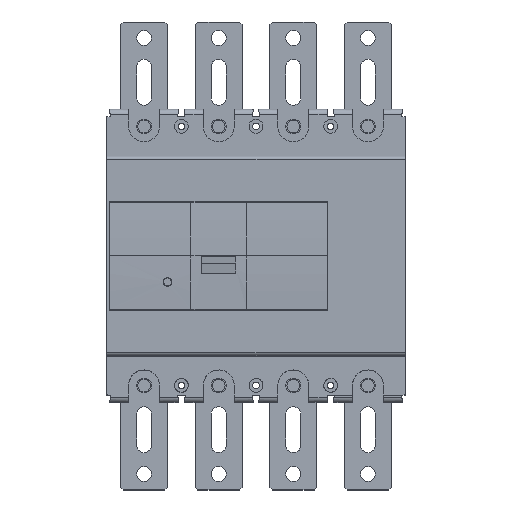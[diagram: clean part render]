
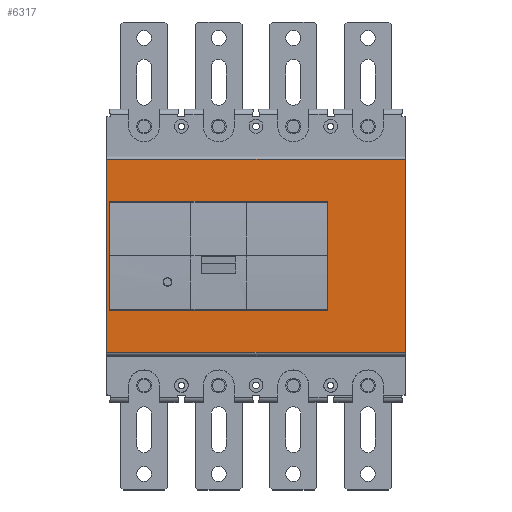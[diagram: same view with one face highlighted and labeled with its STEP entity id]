
A CAD part, top view. The second image highlights one B-rep face of the part: STEP entity #6317.
In plain terms, the highlighted planar face has unit normal (0, 0, 1).
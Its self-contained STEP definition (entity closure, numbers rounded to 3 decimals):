
#15 = CARTESIAN_POINT ( 'NONE',  ( 175., 90.5, 103. ) ) ;
#280 = ORIENTED_EDGE ( 'NONE', *, *, #8666, .T. ) ;
#472 = EDGE_CURVE ( 'NONE', #4126, #8591, #688, .T. ) ;
#688 = LINE ( 'NONE', #5199, #9529 ) ;
#945 = ORIENTED_EDGE ( 'NONE', *, *, #472, .F. ) ;
#1053 = EDGE_CURVE ( 'NONE', #6841, #6987, #11228, .T. ) ;
#1151 = VERTEX_POINT ( 'NONE', #5642 ) ;
#1261 = VECTOR ( 'NONE', #12229, 1000. ) ;
#1353 = CARTESIAN_POINT ( 'NONE',  ( -102., -51., 103. ) ) ;
#1421 = ORIENTED_EDGE ( 'NONE', *, *, #10606, .T. ) ;
#1508 = DIRECTION ( 'NONE',  ( -1., 0., 0. ) ) ;
#2078 = CARTESIAN_POINT ( 'NONE',  ( 105., 0., 103. ) ) ;
#2593 = ORIENTED_EDGE ( 'NONE', *, *, #11325, .F. ) ;
#3053 = DIRECTION ( 'NONE',  ( 0., 0., -1. ) ) ;
#3330 = CARTESIAN_POINT ( 'NONE',  ( 102., -51., 103. ) ) ;
#3656 = LINE ( 'NONE', #4412, #10672 ) ;
#3695 = CARTESIAN_POINT ( 'NONE',  ( 175., 0., 103. ) ) ;
#3760 = EDGE_LOOP ( 'NONE', ( #1421, #5104, #5151, #10469 ) ) ;
#3762 = VERTEX_POINT ( 'NONE', #13245 ) ;
#4126 = VERTEX_POINT ( 'NONE', #11892 ) ;
#4316 = CARTESIAN_POINT ( 'NONE',  ( 102., -51., 103. ) ) ;
#4412 = CARTESIAN_POINT ( 'NONE',  ( -105., 0., 103. ) ) ;
#4851 = DIRECTION ( 'NONE',  ( 0., -1., 0. ) ) ;
#4977 = ORIENTED_EDGE ( 'NONE', *, *, #1053, .T. ) ;
#5029 = EDGE_CURVE ( 'NONE', #9074, #1151, #7932, .T. ) ;
#5104 = ORIENTED_EDGE ( 'NONE', *, *, #14020, .F. ) ;
#5151 = ORIENTED_EDGE ( 'NONE', *, *, #13282, .F. ) ;
#5184 = CARTESIAN_POINT ( 'NONE',  ( 105., -90.5, 103. ) ) ;
#5199 = CARTESIAN_POINT ( 'NONE',  ( -102., 0., 103. ) ) ;
#5236 = LINE ( 'NONE', #3695, #11374 ) ;
#5257 = PLANE ( 'NONE',  #6536 ) ;
#5393 = DIRECTION ( 'NONE',  ( 0., 1., 0. ) ) ;
#5410 = VECTOR ( 'NONE', #5625, 1000. ) ;
#5543 = LINE ( 'NONE', #5184, #9798 ) ;
#5625 = DIRECTION ( 'NONE',  ( -1., 0., 0. ) ) ;
#5642 = CARTESIAN_POINT ( 'NONE',  ( -105., 90.5, 103. ) ) ;
#5730 = EDGE_LOOP ( 'NONE', ( #2593, #4977, #280, #945 ) ) ;
#5789 = CARTESIAN_POINT ( 'NONE',  ( 175., -90.5, 103. ) ) ;
#6075 = FACE_OUTER_BOUND ( 'NONE', #3760, .T. ) ;
#6317 = ADVANCED_FACE ( 'NONE', ( #9825, #6075 ), #5257, .F. ) ;
#6536 = AXIS2_PLACEMENT_3D ( 'NONE', #2078, #3053, #5393 ) ;
#6841 = VERTEX_POINT ( 'NONE', #7266 ) ;
#6987 = VERTEX_POINT ( 'NONE', #4316 ) ;
#7266 = CARTESIAN_POINT ( 'NONE',  ( 102., 51., 103. ) ) ;
#7329 = LINE ( 'NONE', #12340, #11606 ) ;
#7932 = LINE ( 'NONE', #10037, #5410 ) ;
#8214 = LINE ( 'NONE', #3330, #1261 ) ;
#8591 = VERTEX_POINT ( 'NONE', #1353 ) ;
#8666 = EDGE_CURVE ( 'NONE', #6987, #8591, #8214, .T. ) ;
#9074 = VERTEX_POINT ( 'NONE', #15 ) ;
#9313 = VERTEX_POINT ( 'NONE', #5789 ) ;
#9324 = DIRECTION ( 'NONE',  ( 0., -1., 0. ) ) ;
#9529 = VECTOR ( 'NONE', #9324, 1000. ) ;
#9798 = VECTOR ( 'NONE', #12711, 1000. ) ;
#9825 = FACE_BOUND ( 'NONE', #5730, .T. ) ;
#10037 = CARTESIAN_POINT ( 'NONE',  ( 105., 90.5, 103. ) ) ;
#10469 = ORIENTED_EDGE ( 'NONE', *, *, #5029, .T. ) ;
#10606 = EDGE_CURVE ( 'NONE', #1151, #3762, #3656, .T. ) ;
#10672 = VECTOR ( 'NONE', #13127, 1000. ) ;
#11228 = LINE ( 'NONE', #12985, #12931 ) ;
#11325 = EDGE_CURVE ( 'NONE', #6841, #4126, #7329, .T. ) ;
#11374 = VECTOR ( 'NONE', #4851, 1000. ) ;
#11606 = VECTOR ( 'NONE', #1508, 1000. ) ;
#11892 = CARTESIAN_POINT ( 'NONE',  ( -102., 51., 103. ) ) ;
#12229 = DIRECTION ( 'NONE',  ( -1., 0., 0. ) ) ;
#12340 = CARTESIAN_POINT ( 'NONE',  ( 102., 51., 103. ) ) ;
#12711 = DIRECTION ( 'NONE',  ( -1., 0., 0. ) ) ;
#12931 = VECTOR ( 'NONE', #13120, 1000. ) ;
#12985 = CARTESIAN_POINT ( 'NONE',  ( 102., 0., 103. ) ) ;
#13120 = DIRECTION ( 'NONE',  ( 0., -1., 0. ) ) ;
#13127 = DIRECTION ( 'NONE',  ( 0., -1., 0. ) ) ;
#13245 = CARTESIAN_POINT ( 'NONE',  ( -105., -90.5, 103. ) ) ;
#13282 = EDGE_CURVE ( 'NONE', #9074, #9313, #5236, .T. ) ;
#14020 = EDGE_CURVE ( 'NONE', #9313, #3762, #5543, .T. ) ;
